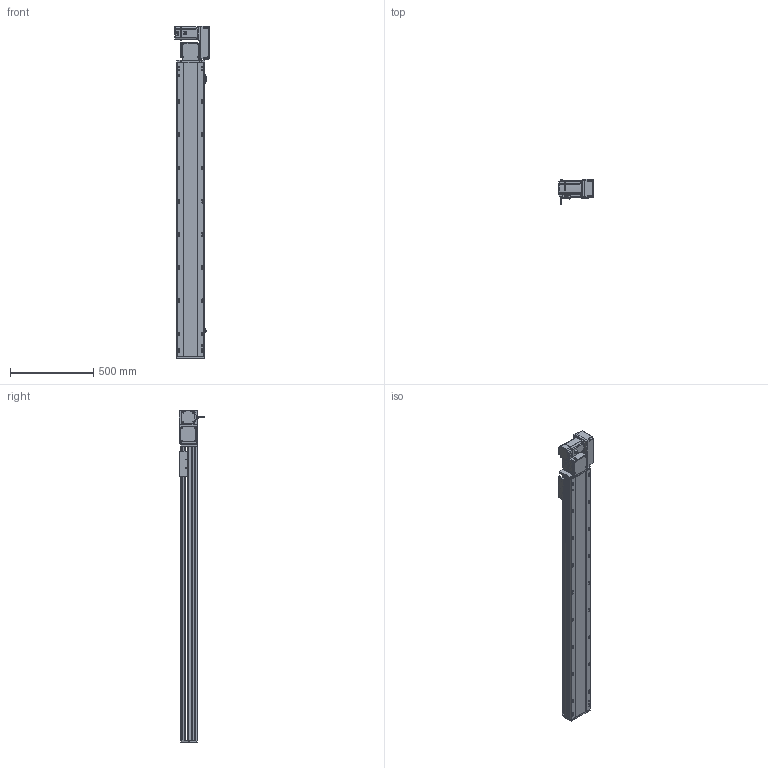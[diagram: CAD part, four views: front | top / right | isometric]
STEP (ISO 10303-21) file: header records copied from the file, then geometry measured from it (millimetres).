
FILE_DESCRIPTION (( 'STEP AP214' ), '1' );
FILE_NAME ('RTB17S-XX-1500-R-M75-C4.STEP', '2025-12-12T01:38:27', ( '' ), ( '' ), 'SwSTEP 2.0', 'SolidWorks 2018', '' );
FILE_SCHEMA (( 'AUTOMOTIVE_DESIGN' ));
Length unit declared in the file: millimetre
Products named in the file (15): RTB17S-R-々湍釱蚾饜-750W^RTB17S-XX-XX-R-M75-C4; 750W萇儂^RTB17S-XX-XX-R-M75-C4; RTB17S-L-004-賑釱^RTB17S-賑釱_RTB17S-XX-XX-R-M75-C4; RTB22S-GY-005P^RTB17S-R-々湍釱蚾饜-750W_RTB17S-XX-XX-R-M75-C4; RTB17S-L-001-耜醱啣^RTB17S-XX-XX-R-M75-C4; RTB17S-XX-1500-R-M75-C4; RTB17S-L-014-T20-P75--々湍釱^RTB17S-R-々湍釱蚾饜-750W_RTB17S-XX-XX-R-M75-C4; RTB17-R-011菁釱^RTB17S-XX-XX-R-M75-C4; RTB22S-GY-017P^RTB17S-R-々湍釱蚾饜-750W_RTB17S-XX-XX-R-M75-C4; RTB17S-L-007奻裔^RTB17S-XX-XX-R-M75-C4; RTB17S-賑釱^RTB17S-XX-XX-R-M75-C4; RTH13-BL-012覜茼え俋离^RTB17S-賑釱_RTB17S-XX-XX-R-M75-C4; EE672^RTB17S-XX-XX-R-M75-C4; RTB22S-GY-018P^RTB17S-R-々湍釱蚾饜-750W_RTB17S-XX-XX-R-M75-C4; RTB22S-GY-008-M75--萇儂啣^RTB17S-R-々湍釱蚾饜-750W_RTB17S-XX-XX-R-M75-C4
Assembly tree (17 placements, depth 3):
  RTB17S-XX-1500-R-M75-C4
    RTB17-R-011菁釱^RTB17S-XX-XX-R-M75-C4
    EE672^RTB17S-XX-XX-R-M75-C4  x3
    RTB17S-L-001-耜醱啣^RTB17S-XX-XX-R-M75-C4
    RTB17S-賑釱^RTB17S-XX-XX-R-M75-C4
      RTB17S-L-004-賑釱^RTB17S-賑釱_RTB17S-XX-XX-R-M75-C4
      RTH13-BL-012覜茼え俋离^RTB17S-賑釱_RTB17S-XX-XX-R-M75-C4
    RTB17S-L-007奻裔^RTB17S-XX-XX-R-M75-C4
    750W萇儂^RTB17S-XX-XX-R-M75-C4
    RTB17S-R-々湍釱蚾饜-750W^RTB17S-XX-XX-R-M75-C4
      RTB17S-L-014-T20-P75--々湍釱^RTB17S-R-々湍釱蚾饜-750W_RTB17S-XX-XX-R-M75-C4
      RTB22S-GY-005P^RTB17S-R-々湍釱蚾饜-750W_RTB17S-XX-XX-R-M75-C4
      RTB22S-GY-017P^RTB17S-R-々湍釱蚾饜-750W_RTB17S-XX-XX-R-M75-C4  x2
      RTB22S-GY-008-M75--萇儂啣^RTB17S-R-々湍釱蚾饜-750W_RTB17S-XX-XX-R-M75-C4
      RTB22S-GY-018P^RTB17S-R-々湍釱蚾饜-750W_RTB17S-XX-XX-R-M75-C4
Bounding box: 207.4 x 152.7 x 1999 mm (x, y, z)
Volume: 15324097.4 mm3; surface area: 2685983 mm2
Topology: 17 solids, 17 shells, 2137 faces, 5944 edges, 3842 vertices
Faces by surface type: plane 976, cylinder 745, bspline 294, cone 110, sphere 8, torus 4
Entity records: 60406 total; most frequent: CARTESIAN_POINT 17808, ORIENTED_EDGE 8732, DIRECTION 8132, EDGE_CURVE 4366, AXIS2_PLACEMENT_3D 2862, VERTEX_POINT 2846, VECTOR 2408, LINE 2408
